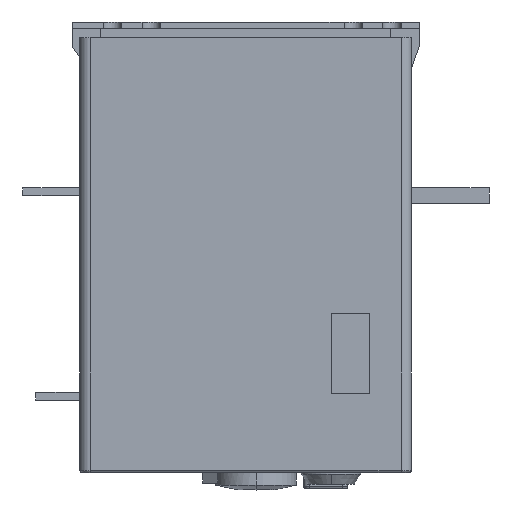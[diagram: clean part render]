
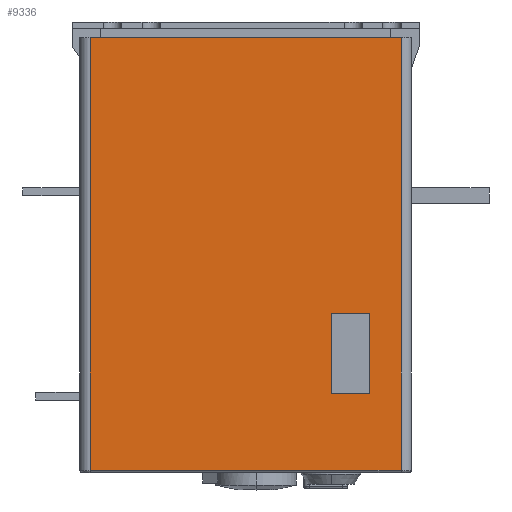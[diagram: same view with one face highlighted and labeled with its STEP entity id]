
A CAD part, left-side view. The second image highlights one B-rep face of the part: STEP entity #9336.
In plain terms, the highlighted planar face has unit normal (-1, 0, 0).
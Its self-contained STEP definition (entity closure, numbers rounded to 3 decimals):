
#2065=DIRECTION('',(0.,0.,1.));
#2066=VECTOR('',#2065,167.);
#2067=CARTESIAN_POINT('',(-316.,-56.,-165.));
#2068=LINE('',#2067,#2066);
#2069=DIRECTION('',(0.,-1.,0.));
#2070=VECTOR('',#2069,120.);
#2071=CARTESIAN_POINT('',(-316.,64.,-165.));
#2072=LINE('',#2071,#2070);
#2073=DIRECTION('',(0.,0.,-1.));
#2074=VECTOR('',#2073,167.);
#2075=CARTESIAN_POINT('',(-316.,64.,2.));
#2076=LINE('',#2075,#2074);
#2077=DIRECTION('',(0.,1.,0.));
#2078=VECTOR('',#2077,120.);
#2079=CARTESIAN_POINT('',(-316.,-56.,2.));
#2080=LINE('',#2079,#2078);
#2081=DIRECTION('',(0.,0.,1.));
#2082=VECTOR('',#2081,31.);
#2083=CARTESIAN_POINT('',(-316.,-44.,-135.5));
#2084=LINE('',#2083,#2082);
#2085=DIRECTION('',(0.,1.,0.));
#2086=VECTOR('',#2085,8.);
#2087=CARTESIAN_POINT('',(-316.,-44.,-104.5));
#2088=LINE('',#2087,#2086);
#2089=DIRECTION('',(0.,0.,-1.));
#2090=VECTOR('',#2089,31.);
#2091=CARTESIAN_POINT('',(-316.,-36.,-104.5));
#2092=LINE('',#2091,#2090);
#2093=DIRECTION('',(0.,-1.,0.));
#2094=VECTOR('',#2093,8.);
#2095=CARTESIAN_POINT('',(-316.,-36.,-135.5));
#2096=LINE('',#2095,#2094);
#5852=CARTESIAN_POINT('',(-316.,-56.,2.));
#5854=VERTEX_POINT('',#5852);
#5858=CARTESIAN_POINT('',(-316.,-56.,-165.));
#5859=VERTEX_POINT('',#5858);
#5868=CARTESIAN_POINT('',(-316.,64.,2.));
#5869=VERTEX_POINT('',#5868);
#5870=CARTESIAN_POINT('',(-316.,64.,-165.));
#5871=VERTEX_POINT('',#5870);
#6176=CARTESIAN_POINT('',(-316.,-44.,-135.5));
#6177=CARTESIAN_POINT('',(-316.,-44.,-104.5));
#6178=VERTEX_POINT('',#6176);
#6179=VERTEX_POINT('',#6177);
#6180=CARTESIAN_POINT('',(-316.,-36.,-104.5));
#6181=VERTEX_POINT('',#6180);
#6182=CARTESIAN_POINT('',(-316.,-36.,-135.5));
#6183=VERTEX_POINT('',#6182);
#9313=CARTESIAN_POINT('',(-316.,0.,0.));
#9314=DIRECTION('',(-1.,0.,0.));
#9315=DIRECTION('',(0.,1.,0.));
#9316=AXIS2_PLACEMENT_3D('',#9313,#9314,#9315);
#9317=PLANE('',#9316);
#9318=ORIENTED_EDGE('',*,*,#8842,.F.);
#9320=ORIENTED_EDGE('',*,*,#9319,.F.);
#9322=ORIENTED_EDGE('',*,*,#9321,.F.);
#9323=ORIENTED_EDGE('',*,*,#8853,.F.);
#9324=EDGE_LOOP('',(#9318,#9320,#9322,#9323));
#9325=FACE_OUTER_BOUND('',#9324,.F.);
#9327=ORIENTED_EDGE('',*,*,#9326,.T.);
#9329=ORIENTED_EDGE('',*,*,#9328,.T.);
#9331=ORIENTED_EDGE('',*,*,#9330,.T.);
#9333=ORIENTED_EDGE('',*,*,#9332,.T.);
#9334=EDGE_LOOP('',(#9327,#9329,#9331,#9333));
#9335=FACE_BOUND('',#9334,.F.);
#9336=ADVANCED_FACE('',(#9325,#9335),#9317,.T.);
#8842=EDGE_CURVE('',#5859,#5854,#2068,.T.);
#8853=EDGE_CURVE('',#5854,#5869,#2080,.T.);
#9319=EDGE_CURVE('',#5871,#5859,#2072,.T.);
#9321=EDGE_CURVE('',#5869,#5871,#2076,.T.);
#9326=EDGE_CURVE('',#6178,#6179,#2084,.T.);
#9328=EDGE_CURVE('',#6179,#6181,#2088,.T.);
#9330=EDGE_CURVE('',#6181,#6183,#2092,.T.);
#9332=EDGE_CURVE('',#6183,#6178,#2096,.T.);
